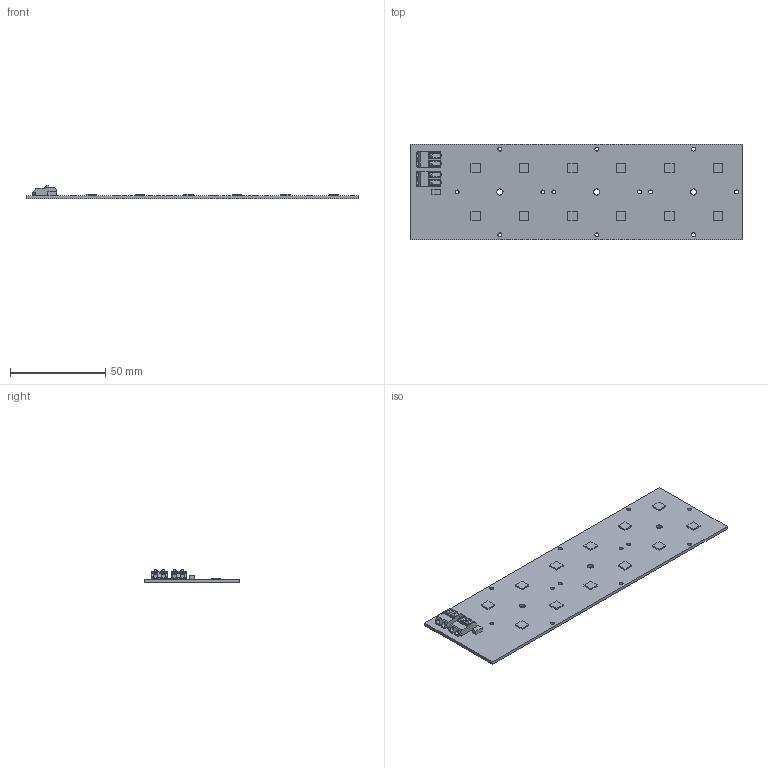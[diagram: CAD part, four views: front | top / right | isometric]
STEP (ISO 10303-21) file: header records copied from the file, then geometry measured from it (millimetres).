
FILE_DESCRIPTION(('Open CASCADE Model'),'2;1');
FILE_NAME('Open CASCADE Shape Model','2025-09-13T00:51:37',('Author'),( 'Open CASCADE'),'Open CASCADE STEP processor 6.8','Open CASCADE 6.8' ,'Unknown');
FILE_SCHEMA(('AUTOMOTIVE_DESIGN { 1 0 10303 214 1 1 1 1 }'));
Length unit declared in the file: millimetre
Products named in the file (1): PCB
Bounding box: 174.2 x 50 x 6.95 mm (x, y, z)
Volume: 14658.4 mm3; surface area: 20200.6 mm2
Topology: 16 solids, 20 shells, 469 faces, 1279 edges, 850 vertices
Faces by surface type: plane 342, cylinder 119, sphere 8
Full cylindrical faces by diameter (mm): 2.1 x12, 2.25 x4, 3.2 x3
Entity records: 14879 total; most frequent: CARTESIAN_POINT 2733, ORIENTED_EDGE 2518, DIRECTION 2441, EDGE_CURVE 1259, LINE 957, VECTOR 957, VERTEX_POINT 842, AXIS2_PLACEMENT_3D 742
